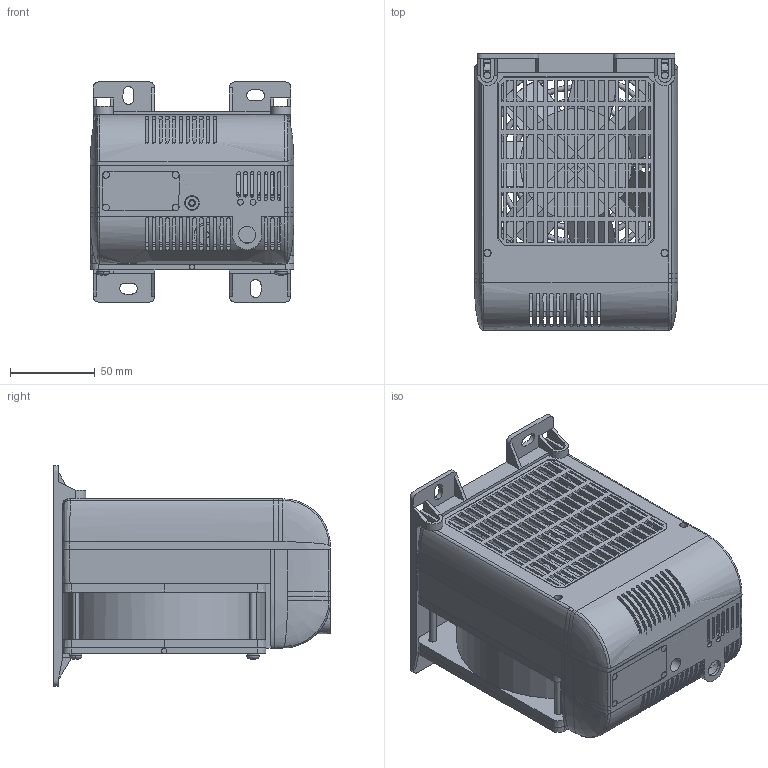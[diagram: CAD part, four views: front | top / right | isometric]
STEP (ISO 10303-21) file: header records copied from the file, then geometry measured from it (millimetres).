
FILE_DESCRIPTION (( 'STEP AP214' ), '1' );
FILE_NAME ('R5FPH1210_STEP_v1_062026.STEP', '2026-06-25T19:52:23', ( '' ), ( '' ), 'SwSTEP 2.0', 'SolidWorks 2022', '' );
FILE_SCHEMA (( 'AUTOMOTIVE_DESIGN' ));
Length unit declared in the file: millimetre
Products named in the file (42): Document-0.stp; Document-6.stp; Document-35.stp; Document-32.stp; Document-1.stp; Document-34.stp; Document-24.stp; Document-12.stp; Document-18.stp; Document-10.stp; Document-28.stp; Document-4.stp; Document-37.stp; Document-23.stp; Document.stp; Document-36.stp; Blocco01.stp; Document-2.stp; R5FPH1210_STEP_v1_062026; Document-21.stp; Document-20.stp; Document-14.stp; Document-26.stp; Document-3.stp; Document-19.stp; Document-17.stp; Document-7.stp; Document-29.stp; Document-11.stp; Document-22.stp; Document-31.stp; R5FPH1210.stp; Document-8.stp; Document-9.stp; Document-33.stp; Document-15.stp; Document-16.stp; Document-5.stp; Document-25.stp; Document-30.stp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
Assembly tree (41 placements, depth 3):
  R5FPH1210_STEP_v1_062026
    R5FPH1210.stp
      Blocco01.stp
      Document.stp
      Document-0.stp
      Document-1.stp
      Document-2.stp
      Document-3.stp
      Document-4.stp
      Document-5.stp
      Document-6.stp
      Document-7.stp
      Document-8.stp
      Document-9.stp
      Document-10.stp
      Document-11.stp
      Document-12.stp
      Document-13.stp
      Document-14.stp
      Document-15.stp
      Document-16.stp
      Document-17.stp
      Document-18.stp
      Document-19.stp
      Document-20.stp
      Document-21.stp
      Document-22.stp
      Document-23.stp
      Document-24.stp
      Document-25.stp
      Document-26.stp
      Document-27.stp
      Document-28.stp
      Document-29.stp
      Document-30.stp
      Document-31.stp
      Document-32.stp
      Document-33.stp
      Document-34.stp
      Document-35.stp
      Document-36.stp
      Document-37.stp
Bounding box: 120.42 x 163.36 x 130 mm (x, y, z)
Volume: 329100.9 mm3; surface area: 324192.8 mm2
Topology: 38 solids, 40 shells, 1631 faces, 4596 edges, 3031 vertices
Faces by surface type: plane 1002, bspline 629
Entity records: 114702 total; most frequent: CARTESIAN_POINT 82144, ORIENTED_EDGE 9164, EDGE_CURVE 4590, B_SPLINE_CURVE_WITH_KNOTS 3985, VERTEX_POINT 3031, DIRECTION 2096, EDGE_LOOP 1998, ADVANCED_FACE 1630
